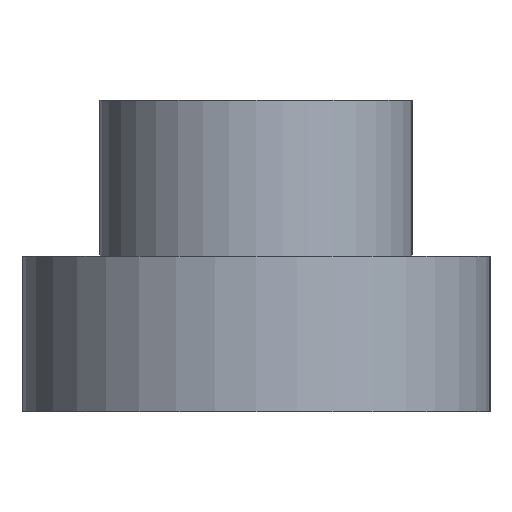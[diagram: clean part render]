
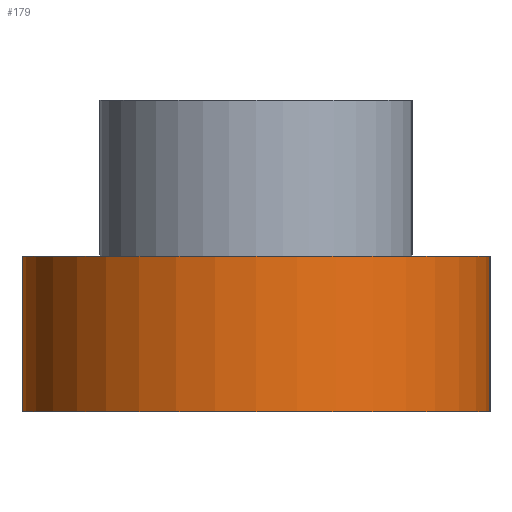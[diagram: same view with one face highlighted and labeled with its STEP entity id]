
A CAD part, left-side view. The second image highlights one B-rep face of the part: STEP entity #179.
In plain terms, the highlighted cylindrical face has radius 1.5 mm (diameter 3 mm), a partial arc.
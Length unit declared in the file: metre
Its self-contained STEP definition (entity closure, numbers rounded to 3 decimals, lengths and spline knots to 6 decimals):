
#13=CYLINDRICAL_SURFACE('',#208,0.0015);
#16=CIRCLE('',#200,0.0015);
#21=CIRCLE('',#209,0.0015);
#44=ORIENTED_EDGE('',*,*,#87,.F.);
#45=ORIENTED_EDGE('',*,*,#86,.T.);
#46=ORIENTED_EDGE('',*,*,#73,.T.);
#47=ORIENTED_EDGE('',*,*,#82,.F.);
#73=EDGE_CURVE('',#98,#97,#16,.T.);
#82=EDGE_CURVE('',#105,#97,#118,.T.);
#86=EDGE_CURVE('',#107,#98,#121,.T.);
#87=EDGE_CURVE('',#107,#105,#21,.T.);
#97=VERTEX_POINT('',#278);
#98=VERTEX_POINT('',#280);
#105=VERTEX_POINT('',#296);
#107=VERTEX_POINT('',#304);
#118=LINE('',#297,#134);
#121=LINE('',#305,#137);
#134=VECTOR('',#238,1.);
#137=VECTOR('',#247,1.);
#149=EDGE_LOOP('',(#44,#45,#46,#47));
#161=FACE_BOUND('',#149,.T.);
#179=ADVANCED_FACE('',(#161),#13,.T.);
#200=AXIS2_PLACEMENT_3D('',#279,#223,#224);
#208=AXIS2_PLACEMENT_3D('',#306,#248,#249);
#209=AXIS2_PLACEMENT_3D('',#307,#250,#251);
#223=DIRECTION('',(0.,0.,-1.));
#224=DIRECTION('',(-1.,0.,0.));
#238=DIRECTION('',(0.,0.,1.));
#247=DIRECTION('',(0.,0.,1.));
#248=DIRECTION('',(0.,0.,1.));
#249=DIRECTION('',(1.,0.,0.));
#250=DIRECTION('',(0.,0.,-1.));
#251=DIRECTION('',(-1.,0.,0.));
#278=CARTESIAN_POINT('',(-0.21985,0.0405,-0.01975));
#279=CARTESIAN_POINT('',(-0.21985,0.039,-0.01975));
#280=CARTESIAN_POINT('',(-0.21985,0.0375,-0.01975));
#296=CARTESIAN_POINT('',(-0.21985,0.0405,-0.02075));
#297=CARTESIAN_POINT('',(-0.21985,0.0405,-0.020752));
#304=CARTESIAN_POINT('',(-0.21985,0.0375,-0.02075));
#305=CARTESIAN_POINT('',(-0.21985,0.0375,-0.020752));
#306=CARTESIAN_POINT('',(-0.21985,0.039,-0.020752));
#307=CARTESIAN_POINT('',(-0.21985,0.039,-0.02075));
